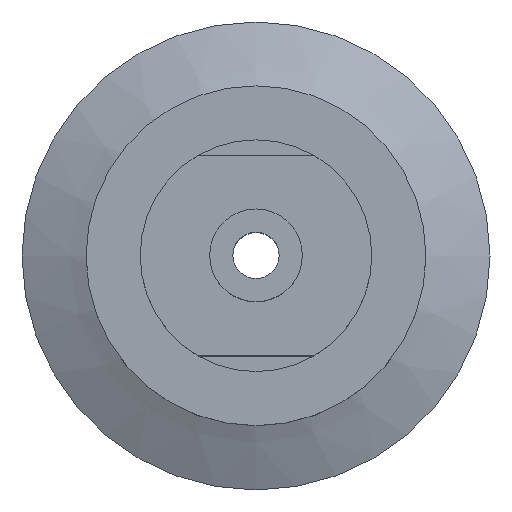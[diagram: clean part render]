
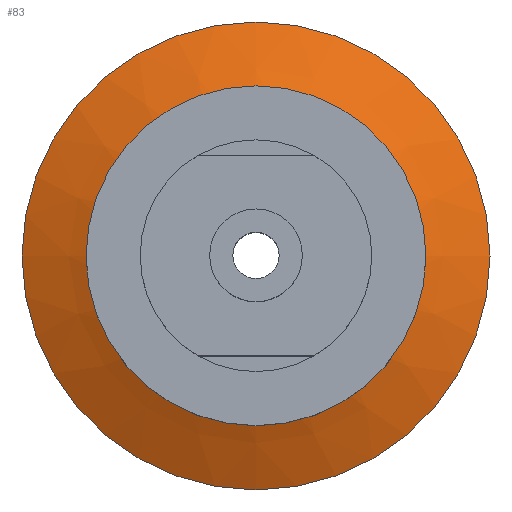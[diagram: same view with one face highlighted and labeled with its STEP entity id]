
A CAD part, top view. The second image highlights one B-rep face of the part: STEP entity #83.
In plain terms, the highlighted conical face has half-angle 66.595 degrees and reference radius 15.15 mm.
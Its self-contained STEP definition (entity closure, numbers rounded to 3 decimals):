
#83=ADVANCED_FACE('',(#184,#185),#186,.T.);
#184=FACE_BOUND('',#375,.T.);
#185=FACE_OUTER_BOUND('',#376,.T.);
#186=CONICAL_SURFACE('',#377,15.15,1.162);
#375=EDGE_LOOP('',(#595));
#376=EDGE_LOOP('',(#596));
#377=AXIS2_PLACEMENT_3D('',#597,#598,#599);
#595=ORIENTED_EDGE('',*,*,#1211,.T.);
#596=ORIENTED_EDGE('',*,*,#1222,.F.);
#597=CARTESIAN_POINT('',(0.0,0.0,0.15));
#598=DIRECTION('',(0.0,0.,-1.0));
#599=DIRECTION('',(0.0,1.0,0.));
#1211=EDGE_CURVE('',#1421,#1421,#1422,.T.);
#1222=EDGE_CURVE('',#1440,#1440,#1441,.T.);
#1421=VERTEX_POINT('',#1767);
#1422=CIRCLE('',#1768,9.088);
#1440=VERTEX_POINT('',#1789);
#1441=CIRCLE('',#1790,15.15);
#1767=CARTESIAN_POINT('',(0.0,9.088,2.774));
#1768=AXIS2_PLACEMENT_3D('',#2208,#2209,#2210);
#1789=CARTESIAN_POINT('',(0.0,15.15,0.15));
#1790=AXIS2_PLACEMENT_3D('',#2235,#2236,#2237);
#2208=CARTESIAN_POINT('',(0.0,0.,2.774));
#2209=DIRECTION('',(0.0,0.,-1.0));
#2210=DIRECTION('',(0.0,1.0,0.));
#2235=CARTESIAN_POINT('',(0.0,0.0,0.15));
#2236=DIRECTION('',(0.0,0.,-1.0));
#2237=DIRECTION('',(0.0,1.0,0.));
